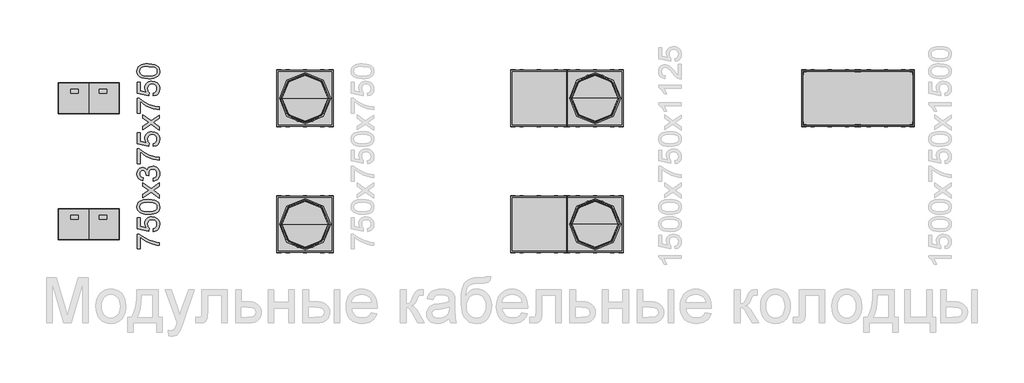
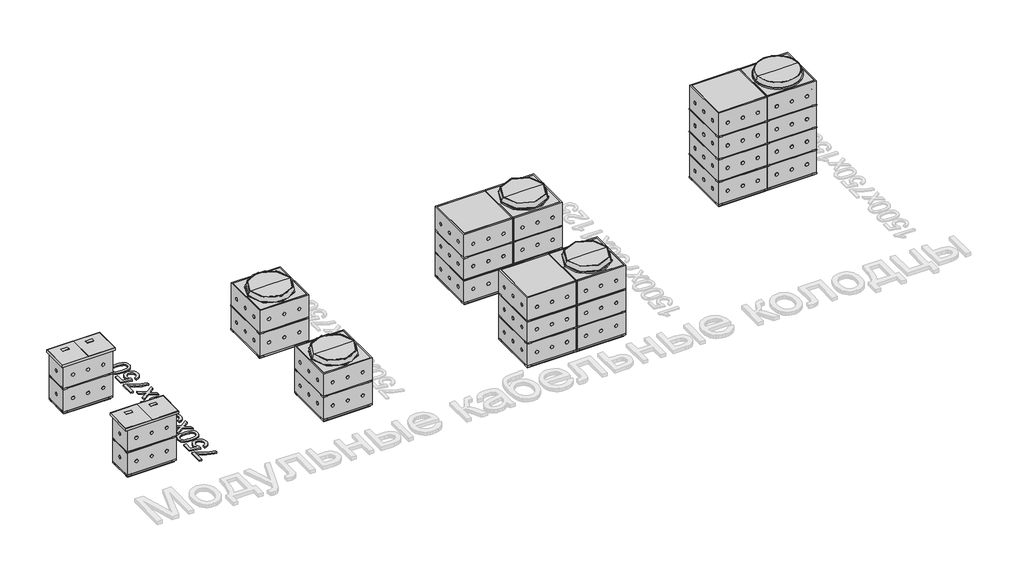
# One storey, part 1 of 3: 7 cable carrier fittings, 1 proxy.
"""IFC4 building model written with IfcOpenShell, lengths in millimetres."""

from ifc_helpers import new_model, si_unit, origin, origin_with_axes, place, context, project, spatial, polyline, outline, extrude, transform, mapped, element, save
from components import cable_carrier_fitting_aa620e18, cable_carrier_fitting_e228d21c, cable_carrier_fitting_457583df, cable_carrier_fitting_decc5438, cable_carrier_fitting_5b58c212

model = new_model("IFC4")

# Units and contexts
model_context = context("Model", 3, world=origin())
ifc_project = project(units=[si_unit("LENGTHUNIT", "METRE", prefix="MILLI")], contexts=[model_context])

# Site, building, storey
site = spatial("IfcSite", under=ifc_project)
building = spatial("IfcBuilding", under=site)
storey = spatial("IfcBuildingStorey", under=building, Name="Этаж 01", Elevation=0.0)

# Proxy
placement = place(None, origin())
element("IfcBuildingElementProxy", 1, Name="300 мм Arial 2", ObjectType="300 мм Arial 2", at=placement, inside=storey, context=model_context, shape_type="SweptSolid", body=[
    extrude(outline(polyline([(2018.5936255, -5520.3300285), (1980.9225092, -5520.3300285), (1980.9225092, -5322.5566679), (2011.3831384, -5322.5566679), (2047.0584949, -5350.7456258), (2092.427542, -5378.6586722), (2143.3516072, -5403.2791747), (2195.692018, -5421.590501), (2234.8530564, -5430.5668217), (2277.5825501, -5435.5700168), (2277.5825501, -5473.2411331), (2238.7526056, -5469.16684), (2192.6018093, -5458.2683359), (2143.6827009, -5440.8399264), (2096.5478203, -5417.1759171), (2053.9378882, -5389.5479792), (2018.5936255, -5360.2277842), (2018.5936255, -5520.3300285)])), origin_with_axes(), (0.0, 0.0, 1.0), 20.0),
    extrude(outline(polyline([(2197.531428, -5289.5944411), (2192.8225385, -5251.9233248), (2215.4380841, -5245.0071433), (2231.6340889, -5232.9406139), (2241.3737648, -5215.7789188), (2244.6203234, -5193.5772404), (2240.1045719, -5166.574702), (2226.5573174, -5146.3411922), (2205.5420584, -5133.7044457), (2178.6222934, -5129.4921968), (2153.275224, -5133.4377312), (2133.8878428, -5145.2743344), (2121.5821901, -5165.0939769), (2117.4803058, -5192.9886292), (2119.1173807, -5211.2631673), (2124.0286054, -5226.0612206), (2141.0247535, -5247.2144353), (2136.315864, -5284.8855516), (1980.9225092, -5251.9233248), (1980.9225092, -5105.9477492), (2018.5936255, -5105.9477492), (2018.5936255, -5221.4626956), (2101.5878036, -5237.575927), (2085.2538431, -5210.6653591), (2079.8091895, -5182.4672041), (2081.4968482, -5164.1213889), (2086.5598241, -5147.2700943), (2094.9981174, -5131.9133202), (2106.811728, -5118.0510668), (2121.2786874, -5106.5754478), (2137.6770274, -5098.3785771), (2156.0067478, -5093.4604547), (2176.2678487, -5091.8210805), (2213.938965, -5097.7255866), (2230.7327781, -5105.1062191), (2246.1654278, -5115.4391046), (2261.970558, -5131.0924835), (2273.2599367, -5149.3578246), (2280.0335639, -5170.2351278), (2282.2914397, -5193.7243932), (2276.4881012, -5230.7241249), (2269.2339281, -5246.4027956), (2259.0780858, -5260.2006697), (2246.526412, -5271.6808872), (2232.0847444, -5280.4065883), (2197.531428, -5289.5944411)])), origin_with_axes(), (0.0, 0.0, 1.0), 20.0),
    extrude(outline(polyline([(2129.3261061, -5058.8588538), (2081.0875795, -5056.0905418), (2042.6163198, -5047.7856057), (2013.323716, -5034.0268191), (1992.6211567, -5014.8969553), (1980.3155039, -4990.2580587), (1976.2136197, -4959.9721735), (1978.6416409, -4936.7588196), (1985.9257044, -4915.9734868), (1997.7807017, -4898.5910626), (2013.9215242, -4885.586434), (2034.2102162, -4875.7639848), (2058.508822, -4867.9280983), (2089.3649244, -4862.7961444), (2129.3261061, -4861.0854932), (2177.2887212, -4863.826214), (2215.6680104, -4872.0483766), (2244.9882054, -4885.7243898), (2265.7735381, -4904.8266624), (2278.1619643, -4929.5207413), (2282.2914397, -4959.9721735), (2280.498015, -4980.720718), (2275.1177408, -4999.1148178), (2266.1506171, -5015.1544727), (2253.5966441, -5028.839683), (2230.9029235, -5041.9730702), (2202.6265936, -5051.3540611), (2168.7676545, -5056.9826556), (2129.3261061, -5058.8588538)]), holes=[polyline([(2129.2525297, -5021.1877375), (2188.5091221, -5016.7731535), (2208.7771207, -5011.2549236), (2222.8049211, -5003.5294017), (2239.1664728, -4983.8109268), (2244.6203234, -4959.9721735), (2239.1480787, -4936.1334202), (2222.7313447, -4916.4149452), (2208.6805517, -4908.6894233), (2188.4171516, -4903.1711934), (2129.2525297, -4898.7566095), (2071.3295095, -4903.0240406), (2051.1281895, -4908.3583295), (2036.7669961, -4915.826334), (2019.605301, -4935.5080208), (2013.884736, -4960.4136319), (2018.9247193, -4983.9948678), (2034.0446693, -5002.9407905), (2049.6796541, -5010.9238298), (2070.7592925, -5016.6260007), (2129.2525297, -5021.1877375)])]), origin_with_axes(), (0.0, 0.0, 1.0), 20.0),
    extrude(outline(polyline([(2277.5825501, -4842.249935), (2166.3350348, -4761.7573545), (2056.2647418, -4837.5410455), (2056.2647418, -4792.2179837), (2109.2397491, -4755.6505133), (2134.2557248, -4738.5807888), (2113.8014859, -4723.7919326), (2056.2647418, -4682.1476907), (2056.2647418, -4636.8246289), (2166.3350348, -4716.4342927), (2277.5825501, -4639.7676849), (2277.5825501, -4685.0907467), (2210.7016034, -4731.2231489), (2198.4879212, -4739.6844348), (2277.5825501, -4796.9268732), (2277.5825501, -4842.249935)])), origin_with_axes(), (0.0, 0.0, 1.0), 20.0),
    extrude(outline(polyline([(2197.531428, -4616.2232372), (2192.8225385, -4578.5521209), (2216.4957448, -4570.1184261), (2232.4802175, -4557.7667881), (2241.5852969, -4540.8902016), (2244.6203234, -4518.8816613), (2240.4448627, -4493.0563452), (2227.9184808, -4473.1171411), (2209.2300754, -4460.3700299), (2186.5685445, -4456.1209929), (2165.0566449, -4460.3332417), (2147.6098412, -4472.9699883), (2136.0491495, -4492.099852), (2132.1955856, -4515.7914525), (2136.315864, -4542.2053797), (2098.6447477, -4538.011525), (2099.0862061, -4531.9782603), (2096.3822734, -4509.4086999), (2088.2704754, -4489.2303724), (2074.548477, -4474.9933392), (2055.0139431, -4470.2476615), (2038.7443618, -4473.6873581), (2025.5465952, -4484.0064481), (2016.8002008, -4499.7517975), (2013.884736, -4519.4702724), (2016.827792, -4539.2255356), (2025.6569598, -4555.3755552), (2040.3722397, -4567.1661731), (2060.9736314, -4573.8432313), (2056.2647418, -4611.5143476), (2022.4379924, -4600.4227055), (1997.1828934, -4580.6858364), (1981.4559381, -4553.683298), (1976.2136197, -4520.7946476), (1978.7979907, -4497.1122442), (1986.5511038, -4475.3612212), (1998.7831801, -4457.0223038), (2014.804441, -4443.5762168), (2033.2629201, -4435.3264631), (2052.8066511, -4432.5765452), (2071.0168099, -4435.1885073), (2087.5347114, -4443.0243938), (2101.6061977, -4455.9738401), (2112.4771107, -4473.9264814), (2122.0052544, -4450.3452455), (2138.2288504, -4432.8708508), (2160.2649819, -4422.0551201), (2187.2307321, -4418.4498766), (2206.3422018, -4420.2524983), (2223.9453552, -4425.6603637), (2240.0401925, -4434.6734726), (2254.6267136, -4447.291825), (2266.7300313, -4462.6646939), (2275.3752582, -4479.9413521), (2280.5623943, -4499.1217996), (2282.2914397, -4520.2060364), (2280.8153132, -4539.2623238), (2276.3869337, -4556.626354), (2269.0063011, -4572.2981269), (2258.6734156, -4586.2776428), (2245.9952823, -4597.9992828), (2231.5789066, -4606.8974286), (2215.4242885, -4612.97208), (2197.531428, -4616.2232372)])), origin_with_axes(), (0.0, 0.0, 1.0), 20.0),
    extrude(outline(polyline([(2018.5936255, -4385.4876498), (1980.9225092, -4385.4876498), (1980.9225092, -4187.7142892), (2011.3831384, -4187.7142892), (2047.0584949, -4215.9032471), (2092.427542, -4243.8162935), (2143.3516072, -4268.436796), (2195.692018, -4286.7481223), (2234.8530564, -4295.724443), (2277.5825501, -4300.7276381), (2277.5825501, -4338.3987544), (2238.7526056, -4334.3244613), (2192.6018093, -4323.4259572), (2143.6827009, -4305.9975477), (2096.5478203, -4282.3335384), (2053.9378882, -4254.7056005), (2018.5936255, -4225.3854055), (2018.5936255, -4385.4876498)])), origin_with_axes(), (0.0, 0.0, 1.0), 20.0),
    extrude(outline(polyline([(2197.531428, -4154.7520624), (2192.8225385, -4117.0809461), (2215.4380841, -4110.1647646), (2231.6340889, -4098.0982352), (2241.3737648, -4080.9365401), (2244.6203234, -4058.7348617), (2240.1045719, -4031.7323232), (2226.5573174, -4011.4988135), (2205.5420584, -3998.862067), (2178.6222934, -3994.6498181), (2153.275224, -3998.5953525), (2133.8878428, -4010.4319557), (2121.5821901, -4030.2515982), (2117.4803058, -4058.1462505), (2119.1173807, -4076.4207886), (2124.0286054, -4091.2188419), (2141.0247535, -4112.3720566), (2136.315864, -4150.0431729), (1980.9225092, -4117.0809461), (1980.9225092, -3971.1053704), (2018.5936255, -3971.1053704), (2018.5936255, -4086.6203169), (2101.5878036, -4102.7335483), (2085.2538431, -4075.8229804), (2079.8091895, -4047.6248254), (2081.4968482, -4029.2790102), (2086.5598241, -4012.4277155), (2094.9981174, -3997.0709415), (2106.811728, -3983.2086881), (2121.2786874, -3971.7330691), (2137.6770274, -3963.5361984), (2156.0067478, -3958.618076), (2176.2678487, -3956.9787018), (2213.938965, -3962.8832078), (2230.7327781, -3970.2638404), (2246.1654278, -3980.5967259), (2261.970558, -3996.2501048), (2273.2599367, -4014.5154459), (2280.0335639, -4035.3927491), (2282.2914397, -4058.8820145), (2276.4881012, -4095.8817461), (2269.2339281, -4111.5604169), (2259.0780858, -4125.358291), (2246.526412, -4136.8385085), (2232.0847444, -4145.5642096), (2197.531428, -4154.7520624)])), origin_with_axes(), (0.0, 0.0, 1.0), 20.0),
    extrude(outline(polyline([(2277.5825501, -3938.1431437), (2166.3350348, -3857.6505631), (2056.2647418, -3933.4342541), (2056.2647418, -3888.1111923), (2109.2397491, -3851.543722), (2134.2557248, -3834.4739974), (2113.8014859, -3819.6851412), (2056.2647418, -3778.0408994), (2056.2647418, -3732.7178376), (2166.3350348, -3812.3275013), (2277.5825501, -3735.6608935), (2277.5825501, -3780.9839553), (2210.7016034, -3827.1163575), (2198.4879212, -3835.5776434), (2277.5825501, -3892.8200819), (2277.5825501, -3938.1431437)])), origin_with_axes(), (0.0, 0.0, 1.0), 20.0),
    extrude(outline(polyline([(2018.5936255, -3712.1164458), (1980.9225092, -3712.1164458), (1980.9225092, -3514.3430852), (2011.3831384, -3514.3430852), (2047.0584949, -3542.5320431), (2092.427542, -3570.4450895), (2143.3516072, -3595.065592), (2195.692018, -3613.3769183), (2234.8530564, -3622.353239), (2277.5825501, -3627.3564341), (2277.5825501, -3665.0275504), (2238.7526056, -3660.9532573), (2192.6018093, -3650.0547532), (2143.6827009, -3632.6263437), (2096.5478203, -3608.9623344), (2053.9378882, -3581.3343965), (2018.5936255, -3552.0142015), (2018.5936255, -3712.1164458)])), origin_with_axes(), (0.0, 0.0, 1.0), 20.0),
    extrude(outline(polyline([(2197.531428, -3481.3808585), (2192.8225385, -3443.7097421), (2215.4380841, -3436.7935606), (2231.6340889, -3424.7270312), (2241.3737648, -3407.5653361), (2244.6203234, -3385.3636577), (2240.1045719, -3358.3611193), (2226.5573174, -3338.1276095), (2205.5420584, -3325.490863), (2178.6222934, -3321.2786142), (2153.275224, -3325.2241485), (2133.8878428, -3337.0607517), (2121.5821901, -3356.8803942), (2117.4803058, -3384.7750465), (2119.1173807, -3403.0495846), (2124.0286054, -3417.8476379), (2141.0247535, -3439.0008526), (2136.315864, -3476.6719689), (1980.9225092, -3443.7097421), (1980.9225092, -3297.7341665), (2018.5936255, -3297.7341665), (2018.5936255, -3413.2491129), (2101.5878036, -3429.3623443), (2085.2538431, -3402.4517764), (2079.8091895, -3374.2536215), (2081.4968482, -3355.9078062), (2086.5598241, -3339.0565116), (2094.9981174, -3323.6997375), (2106.811728, -3309.8374841), (2121.2786874, -3298.3618651), (2137.6770274, -3290.1649944), (2156.0067478, -3285.246872), (2176.2678487, -3283.6074978), (2213.938965, -3289.5120039), (2230.7327781, -3296.8926364), (2246.1654278, -3307.2255219), (2261.970558, -3322.8789008), (2273.2599367, -3341.1442419), (2280.0335639, -3362.0215451), (2282.2914397, -3385.5108105), (2276.4881012, -3422.5105422), (2269.2339281, -3438.189213), (2259.0780858, -3451.987087), (2246.526412, -3463.4673045), (2232.0847444, -3472.1930056), (2197.531428, -3481.3808585)])), origin_with_axes(), (0.0, 0.0, 1.0), 20.0),
    extrude(outline(polyline([(2129.3261061, -3250.6452711), (2081.0875795, -3247.8769591), (2042.6163198, -3239.572023), (2013.323716, -3225.8132364), (1992.6211567, -3206.6833727), (1980.3155039, -3182.044476), (1976.2136197, -3151.7585908), (1978.6416409, -3128.5452369), (1985.9257044, -3107.7599042), (1997.7807017, -3090.3774799), (2013.9215242, -3077.3728513), (2034.2102162, -3067.5504021), (2058.508822, -3059.7145156), (2089.3649244, -3054.5825617), (2129.3261061, -3052.8719105), (2177.2887212, -3055.6126313), (2215.6680104, -3063.8347939), (2244.9882054, -3077.5108071), (2265.7735381, -3096.6130797), (2278.1619643, -3121.3071586), (2282.2914397, -3151.7585908), (2280.498015, -3172.5071353), (2275.1177408, -3190.9012351), (2266.1506171, -3206.9408901), (2253.5966441, -3220.6261003), (2230.9029235, -3233.7594875), (2202.6265936, -3243.1404784), (2168.7676545, -3248.7690729), (2129.3261061, -3250.6452711)]), holes=[polyline([(2129.2525297, -3212.9741548), (2188.5091221, -3208.5595708), (2208.7771207, -3203.0413409), (2222.8049211, -3195.315819), (2239.1664728, -3175.5973441), (2244.6203234, -3151.7585908), (2239.1480787, -3127.9198375), (2222.7313447, -3108.2013625), (2208.6805517, -3100.4758406), (2188.4171516, -3094.9576107), (2129.2525297, -3090.5430268), (2071.3295095, -3094.8104579), (2051.1281895, -3100.1447469), (2036.7669961, -3107.6127514), (2019.605301, -3127.2944381), (2013.884736, -3152.2000492), (2018.9247193, -3175.7812851), (2034.0446693, -3194.7272078), (2049.6796541, -3202.7102471), (2070.7592925, -3208.412418), (2129.2525297, -3212.9741548)])]), origin_with_axes(), (0.0, 0.0, 1.0), 20.0),
])

# Cable carrier fittings
cable_carrier_fitting_shape = cable_carrier_fitting_aa620e18(model_context)
element("IfcCableCarrierFitting", 2, ObjectType="КНС_КолодецПластиковыйСКрышками_750-375-750_270375-270375V0_DKC : Колодец кабельный 750×375×750_270375", at=placement, inside=storey, context=model_context, shape_type="MappedRepresentation", body=[
    mapped(cable_carrier_fitting_shape, transform((1334.6654766, -3511.5608655, 0.0), x_axis=(1.0, 0.0, 0.0), y_axis=(0.0, 1.0, 0.0), z_axis=(0.0, 0.0, 1.0))),
])
element("IfcCableCarrierFitting", 3, ObjectType="КНС_КолодецПластиковыйСКрышками_750-375-750_270375-270375V0_DKC : Колодец кабельный 750×375×750_270375V0", at=placement, inside=storey, context=model_context, shape_type="MappedRepresentation", body=[
    mapped(cable_carrier_fitting_shape, transform((1334.6654766, -5191.5608655, 0.0), x_axis=(1.0, 0.0, 0.0), y_axis=(0.0, 1.0, 0.0), z_axis=(0.0, 0.0, 1.0))),
])
cable_carrier_fitting_2_shape = cable_carrier_fitting_e228d21c(model_context)
element("IfcCableCarrierFitting", 4, ObjectType="КНС_КолодецПластиковыйСЛюком_750-750-750_270750-270750V0_DKC : Колодец кабельный 750×750×750_270750", at=placement, inside=storey, context=model_context, shape_type="MappedRepresentation", body=[
    mapped(cable_carrier_fitting_2_shape, transform((4218.8805146, -3511.5608655, 0.0), x_axis=(1.0, 0.0, 0.0), y_axis=(0.0, 1.0, 0.0), z_axis=(0.0, 0.0, 1.0))),
])
element("IfcCableCarrierFitting", 5, ObjectType="КНС_КолодецПластиковыйСЛюком_750-750-750_270750-270750V0_DKC : Колодец кабельный 750×750×750_270750V0", at=placement, inside=storey, context=model_context, shape_type="MappedRepresentation", body=[
    mapped(cable_carrier_fitting_2_shape, transform((4218.8805146, -5191.5608655, 0.0), x_axis=(1.0, 0.0, 0.0), y_axis=(0.0, 1.0, 0.0), z_axis=(0.0, 0.0, 1.0))),
])
cable_carrier_fitting_3_shape = cable_carrier_fitting_457583df(model_context)
element("IfcCableCarrierFitting", 6, ObjectType="КНС_КолодецПластиковыйСЛюком_1500-750-1125_281500-281500V0_DKC : Колодец кабельный 1500×750×1125_281500", at=placement, inside=storey, context=model_context, shape_type="MappedRepresentation", body=[
    mapped(cable_carrier_fitting_3_shape, transform((7710.7368907, -3511.5608655, -224.1666667), x_axis=(-1.0, 0.0, 0.0), y_axis=(0.0, -1.0, 0.0), z_axis=(0.0, 0.0, 1.0))),
])
element("IfcCableCarrierFitting", 7, ObjectType="КНС_КолодецПластиковыйСЛюком_1500-750-1125_281500-281500V0_DKC : Колодец кабельный 1500×750×1125_281500V0", at=placement, inside=storey, context=model_context, shape_type="MappedRepresentation", body=[
    mapped(cable_carrier_fitting_3_shape, transform((7710.7368907, -5191.5608655, -224.1666667), x_axis=(-1.0, 0.0, 0.0), y_axis=(0.0, -1.0, 0.0), z_axis=(0.0, 0.0, 1.0))),
])
cable_carrier_fitting_4_shape = cable_carrier_fitting_decc5438(model_context)
cable_carrier_fitting_5_shape = cable_carrier_fitting_5b58c212(model_context)
element("IfcCableCarrierFitting", 8, ObjectType="КНС_КолодецПластиковыйСЛюком_1500-750-1500_301500_DKC : Колодец кабельный 1500×750×1500_301500", at=placement, inside=storey, context=model_context, shape_type="MappedRepresentation", body=[
    mapped(cable_carrier_fitting_4_shape, transform((11592.0854347, -3511.5608655, 0.0), x_axis=(-1.0, 0.0, 0.0), y_axis=(0.0, -1.0, 0.0), z_axis=(0.0, 0.0, 1.0))),
    mapped(cable_carrier_fitting_5_shape, transform((11592.0854347, -3511.5608655, 0.0), x_axis=(-1.0, 0.0, 0.0), y_axis=(0.0, -1.0, 0.0), z_axis=(0.0, 0.0, 1.0))),
])

save(model, "model.ifc")
